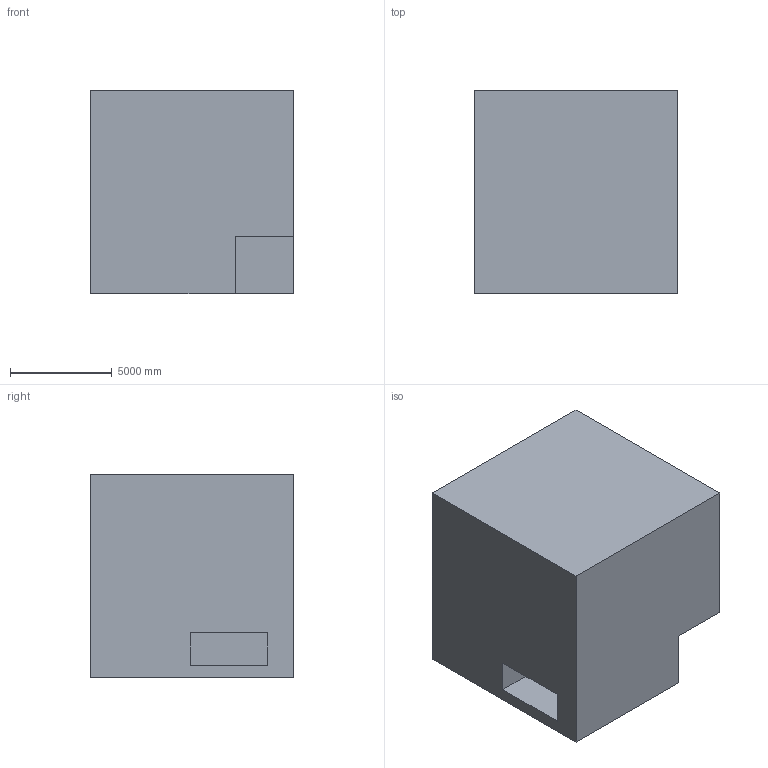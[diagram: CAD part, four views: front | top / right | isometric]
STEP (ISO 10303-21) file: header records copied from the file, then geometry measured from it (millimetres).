
FILE_DESCRIPTION (( 'STEP AP203' ), '1' );
FILE_NAME ('238.STEP', '2022-09-07T12:23:53', ( 'user' ), ( '' ), 'SwSTEP 2.0', 'SolidWorks 2021', '' );
FILE_SCHEMA (( 'CONFIG_CONTROL_DESIGN' ));
Length unit declared in the file: centimetre
Products named in the file (1): 238
Bounding box: 10000 x 10000 x 10000 mm (x, y, z)
Volume: 949679983745.5 mm3; surface area: 621479201.4 mm2
Topology: 1 solids, 1 shells, 14 faces, 33 edges, 22 vertices
Faces by surface type: plane 14
Entity records: 474 total; most frequent: CARTESIAN_POINT 70, ORIENTED_EDGE 66, DIRECTION 63, VECTOR 33, LINE 33, EDGE_CURVE 33, VERTEX_POINT 22, AXIS2_PLACEMENT_3D 15
